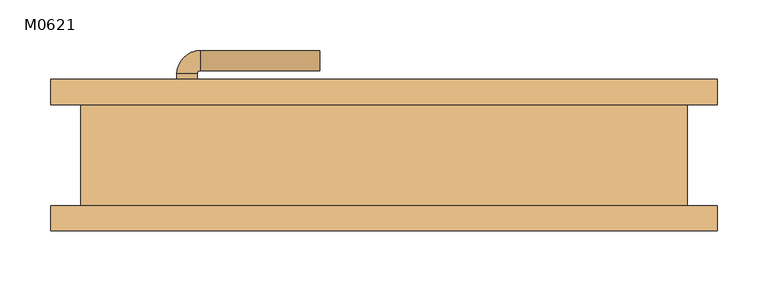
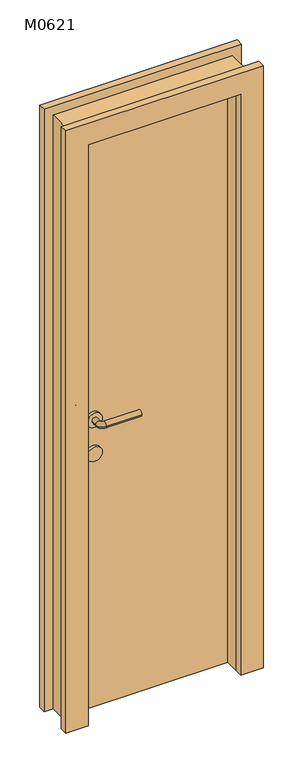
"""IFC4 building model written with IfcOpenShell, lengths in millimetres: door geometry, 单嵌板木门 1 : M0621."""

from ifc_helpers import new_model, si_unit, point, frame, frame_2d, origin, origin_with_axes, place, context, project, spatial, polyline, circle_curve, ellipse_curve, trimmed, segment, composite_curve, outline, extrude, source, transform, mapped, element, save
from ifc_brep_helpers import plane_surface, cylinder_surface, revolved_surface, advanced_brep


def m0621_319aa167(model_context):
    return source(origin(), model_context, "Body", "SolidModel", [
        extrude(outline(composite_curve([segment(trimmed(circle_curve(frame_2d((900.0, -195.0)), 25.0), [point((900.0, -170.0))], [point((900.0, -220.0))], False, "CARTESIAN"), True, "CONTINUOUS"), segment(trimmed(circle_curve(frame_2d((900.0, -195.0)), 25.0), [point((900.0, -220.0))], [point((900.0, -170.0))], False, "CARTESIAN"), True, "CONTINUOUS")], self_intersect=False)), frame((0.0, -10.0, 0.0), z_axis=(0.0, 1.0, 0.0), x_axis=(0.0, 0.0, 1.0)), (0.0, 0.0, 1.0), 10.0),
        extrude(outline(composite_curve([segment(trimmed(circle_curve(frame_2d((900.0, -195.0)), 25.0), [point((900.0, -170.0))], [point((900.0, -220.0))], False, "CARTESIAN"), True, "CONTINUOUS"), segment(trimmed(circle_curve(frame_2d((900.0, -195.0)), 25.0), [point((900.0, -220.0))], [point((900.0, -170.0))], False, "CARTESIAN"), True, "CONTINUOUS")], self_intersect=False)), frame((0.0, 50.0, 0.0), z_axis=(0.0, 1.0, 0.0), x_axis=(0.0, 0.0, 1.0)), (0.0, 0.0, 1.0), 10.0),
        advanced_brep(
        [(-205.0, -10.0, 1020.0), (-185.0, -10.0, 1020.0), (-185.0, -30.613355, 1020.0), (-205.0, -30.613355, 1020.0), (-63.419036, -53.580964, 1020.0), (-63.419036, -33.580964, 1020.0), (-182.0323911, -33.580964, 1020.0), (-182.0323911, -53.580964, 1020.0)],
        [
            (0, 1, circle_curve(frame((-195.0, -10.0, 1020.0), z_axis=(0.0, 1.0, 0.0), x_axis=(1.0, 0.0, 0.0)), 10.0)),
            (1, 0, circle_curve(frame((-195.0, -10.0, 1020.0), z_axis=(0.0, 1.0, 0.0), x_axis=(1.0, 0.0, 0.0)), 10.0)),
            (1, 2),
            (2, 3, circle_curve(frame((-195.0, -30.613355, 1020.0), z_axis=(0.0, 1.0, 0.0), x_axis=(1.0, 0.0, 0.0)), 10.0)),
            (3, 0),
            (3, 2, circle_curve(frame((-195.0, -30.613355, 1020.0), z_axis=(0.0, 1.0, 0.0), x_axis=(1.0, 0.0, 0.0)), 10.0)),
            (4, 5, circle_curve(frame((-63.419036, -43.580964, 1020.0), z_axis=(1.0, 0.0, 0.0), x_axis=(0.0, 1.0, 0.0)), 10.0)),
            (5, 4, circle_curve(frame((-63.419036, -43.580964, 1020.0), z_axis=(1.0, 0.0, 0.0), x_axis=(0.0, 1.0, 0.0)), 10.0)),
            (6, 2, circle_curve(frame((-182.0323911, -30.613355, 1020.0), z_axis=(0.0, 0.0, -1.0), x_axis=(-1.0, 0.0, 0.0)), 2.9676089)),
            (3, 7, circle_curve(frame((-182.0323911, -30.613355, 1020.0), z_axis=(0.0, 0.0, 1.0), x_axis=(-1.0, 0.0, 0.0)), 22.9676089)),
            (7, 6, circle_curve(frame((-182.0323911, -43.580964, 1020.0), z_axis=(-1.0, 0.0, 0.0), x_axis=(0.0, 1.0, 0.0)), 10.0)),
            (6, 7, circle_curve(frame((-182.0323911, -43.580964, 1020.0), z_axis=(-1.0, 0.0, 0.0), x_axis=(0.0, 1.0, 0.0)), 10.0)),
            (7, 4),
            (5, 6),
        ],
        [
            plane_surface(frame((-195.0, -10.0, 900.0), z_axis=(0.0, 1.0, 0.0), x_axis=(0.0, 0.0, 1.0))),
            cylinder_surface(frame((-195.0, -10.0, 1020.0), z_axis=(0.0, 1.0, 0.0), x_axis=(1.0, 0.0, 0.0)), 10.0),
            plane_surface(frame((-63.419036, -43.580964, 900.0), z_axis=(1.0, 0.0, 0.0), x_axis=(0.0, 0.0, 1.0))),
            revolved_surface(trimmed(ellipse_curve(frame((-195.0, -30.613355, 1020.0), z_axis=(0.0, 1.0, 0.0), x_axis=(1.0, 0.0, 0.0)), 10.0, 10.0), [point((-205.0, -30.613355, 1020.0))], [point((-185.0, -30.613355, 1020.0))], True, "CARTESIAN"), (-182.0323911, -30.613355, 900.0), (0.0, 0.0, 1.0)),
            revolved_surface(trimmed(ellipse_curve(frame((-195.0, -30.613355, 1020.0), z_axis=(0.0, 1.0, 0.0), x_axis=(1.0, 0.0, 0.0)), 10.0, 10.0), [point((-185.0, -30.613355, 1020.0))], [point((-205.0, -30.613355, 1020.0))], True, "CARTESIAN"), (-182.0323911, -30.613355, 900.0), (0.0, 0.0, 1.0)),
            cylinder_surface(frame((-182.0323911, -43.580964, 1020.0), z_axis=(-1.0, 0.0, 0.0), x_axis=(0.0, 1.0, 0.0)), 10.0),
        ],
        [
            (0, [[1, 2]]),
            (1, [[-2, 3, 4, 5]]),
            (1, [[-1, -5, 6, -3]]),
            (2, [[7, 8]]),
            (3, [[9, -6, 10, 11]]),
            (4, [[-10, -4, -9, 12]]),
            (5, [[-11, 13, -8, 14]]),
            (5, [[-12, -14, -7, -13]]),
        ],
    ),
        extrude(outline(composite_curve([segment(trimmed(circle_curve(frame_2d((1020.0, -195.0)), 25.0), [point((1020.0, -170.0))], [point((1020.0, -220.0))], False, "CARTESIAN"), True, "CONTINUOUS"), segment(trimmed(circle_curve(frame_2d((1020.0, -195.0)), 25.0), [point((1020.0, -220.0))], [point((1020.0, -170.0))], False, "CARTESIAN"), True, "CONTINUOUS")], self_intersect=False)), frame((0.0, -10.0, 0.0), z_axis=(0.0, 1.0, 0.0), x_axis=(0.0, 0.0, 1.0)), (0.0, 0.0, 1.0), 10.0),
        advanced_brep(
        [(-185.0, 60.0, 1020.0), (-205.0, 60.0, 1020.0), (-185.0, 80.6133551, 1020.0), (-205.0, 80.6133551, 1020.0), (-63.419036, 83.580964, 1020.0), (-63.419036, 103.580964, 1020.0), (-182.0323911, 103.580964, 1020.0), (-182.0323911, 83.580964, 1020.0)],
        [
            (0, 1, circle_curve(frame((-195.0, 60.0, 1020.0), z_axis=(0.0, -1.0, 0.0), x_axis=(-1.0, 0.0, 0.0)), 10.0)),
            (1, 0, circle_curve(frame((-195.0, 60.0, 1020.0), z_axis=(0.0, -1.0, 0.0), x_axis=(-1.0, 0.0, 0.0)), 10.0)),
            (0, 2),
            (2, 3, circle_curve(frame((-195.0, 80.6133551, 1020.0), z_axis=(0.0, -1.0, 0.0), x_axis=(-1.0, 0.0, 0.0)), 10.0)),
            (3, 1),
            (3, 2, circle_curve(frame((-195.0, 80.6133551, 1020.0), z_axis=(0.0, -1.0, 0.0), x_axis=(-1.0, 0.0, 0.0)), 10.0)),
            (4, 5, circle_curve(frame((-63.419036, 93.580964, 1020.0), z_axis=(1.0, 0.0, 0.0), x_axis=(0.0, 1.0, 0.0)), 10.0)),
            (5, 4, circle_curve(frame((-63.419036, 93.580964, 1020.0), z_axis=(1.0, 0.0, 0.0), x_axis=(0.0, 1.0, 0.0)), 10.0)),
            (6, 3, circle_curve(frame((-182.0323911, 80.6133551, 1020.0), z_axis=(0.0, 0.0, 1.0), x_axis=(-1.0, 0.0, 0.0)), 22.9676089)),
            (2, 7, circle_curve(frame((-182.0323911, 80.6133551, 1020.0), z_axis=(0.0, 0.0, -1.0), x_axis=(-1.0, 0.0, 0.0)), 2.9676089)),
            (7, 6, circle_curve(frame((-182.0323911, 93.580964, 1020.0), z_axis=(-1.0, 0.0, 0.0), x_axis=(0.0, 1.0, 0.0)), 10.0)),
            (6, 7, circle_curve(frame((-182.0323911, 93.580964, 1020.0), z_axis=(-1.0, 0.0, 0.0), x_axis=(0.0, 1.0, 0.0)), 10.0)),
            (7, 4),
            (5, 6),
        ],
        [
            plane_surface(frame((-195.0, 60.0, 900.0), z_axis=(0.0, -1.0, 0.0), x_axis=(0.0, 0.0, 1.0))),
            cylinder_surface(frame((-195.0, 60.0, 1020.0), z_axis=(0.0, -1.0, 0.0), x_axis=(-1.0, 0.0, 0.0)), 10.0),
            plane_surface(frame((-63.419036, 93.580964, 900.0), z_axis=(1.0, 0.0, 0.0), x_axis=(0.0, 0.0, 1.0))),
            revolved_surface(trimmed(ellipse_curve(frame((-195.0, 80.6133551, 1020.0), z_axis=(0.0, -1.0, 0.0), x_axis=(-1.0, 0.0, 0.0)), 10.0, 10.0), [point((-185.0, 80.6133551, 1020.0))], [point((-205.0, 80.6133551, 1020.0))], True, "CARTESIAN"), (-182.0323911, 80.6133551, 900.0), (0.0, 0.0, -1.0)),
            revolved_surface(trimmed(ellipse_curve(frame((-195.0, 80.6133551, 1020.0), z_axis=(0.0, -1.0, 0.0), x_axis=(-1.0, 0.0, 0.0)), 10.0, 10.0), [point((-205.0, 80.6133551, 1020.0))], [point((-185.0, 80.6133551, 1020.0))], True, "CARTESIAN"), (-182.0323911, 80.6133551, 900.0), (0.0, 0.0, -1.0)),
            cylinder_surface(frame((-182.0323911, 93.580964, 1020.0), z_axis=(-1.0, 0.0, 0.0), x_axis=(0.0, 1.0, 0.0)), 10.0),
        ],
        [
            (0, [[1, 2]]),
            (1, [[-1, 3, 4, 5]]),
            (1, [[-2, -5, 6, -3]]),
            (2, [[7, 8]]),
            (3, [[9, -4, 10, 11]]),
            (4, [[-10, -6, -9, 12]]),
            (5, [[-11, 13, -8, 14]]),
            (5, [[-12, -14, -7, -13]]),
        ],
    ),
        extrude(outline(composite_curve([segment(trimmed(circle_curve(frame_2d((1020.0, -195.0)), 25.0), [point((1020.0, -170.0))], [point((1020.0, -220.0))], False, "CARTESIAN"), True, "CONTINUOUS"), segment(trimmed(circle_curve(frame_2d((1020.0, -195.0)), 25.0), [point((1020.0, -220.0))], [point((1020.0, -170.0))], False, "CARTESIAN"), True, "CONTINUOUS")], self_intersect=False)), frame((0.0, 50.0, 0.0), z_axis=(0.0, 1.0, 0.0), x_axis=(0.0, 0.0, 1.0)), (0.0, 0.0, 1.0), 10.0),
        extrude(outline(polyline([(0.0, 330.0), (2130.0, 330.0), (2130.0, -330.0), (0.0, -330.0), (0.0, -255.0), (2055.0, -255.0), (2055.0, 255.0), (0.0, 255.0), (0.0, 330.0)])), frame((0.0, 50.0, 0.0), z_axis=(0.0, 1.0, 0.0), x_axis=(0.0, 0.0, 1.0)), (0.0, 0.0, 1.0), 25.0),
        extrude(outline(polyline([(2130.0, 330.0), (2130.0, -330.0), (0.0, -330.0), (0.0, -255.0), (2055.0, -255.0), (2055.0, 255.0), (0.0, 255.0), (0.0, 330.0), (2130.0, 330.0)])), frame((0.0, -75.0, 0.0), z_axis=(0.0, 1.0, 0.0), x_axis=(0.0, 0.0, 1.0)), (0.0, 0.0, 1.0), 25.0),
        extrude(outline(polyline([(255.0, 0.0), (-255.0, 0.0), (-255.0, 50.0), (255.0, 50.0), (255.0, 0.0)])), origin_with_axes(), (0.0, 0.0, 1.0), 2055.0),
        extrude(outline(polyline([(2100.0, -300.0), (0.0, -300.0), (0.0, -255.0), (2055.0, -255.0), (2055.0, 255.0), (0.0, 255.0), (0.0, 300.0), (2100.0, 300.0), (2100.0, -300.0)])), frame((0.0, -50.0, 0.0), z_axis=(0.0, 1.0, 0.0), x_axis=(0.0, 0.0, 1.0)), (0.0, 0.0, 1.0), 100.0),
    ])


if __name__ == "__main__":
    model = new_model("IFC4")
    model_context = context("Model", 3, world=origin())
    ifc_project = project(units=[si_unit("LENGTHUNIT", "METRE", prefix="MILLI")], contexts=[model_context])
    site = spatial("IfcSite", under=ifc_project)
    building = spatial("IfcBuilding", under=site)
    placement = place(None, origin())
    m0621_shape = m0621_319aa167(model_context)
    element("IfcDoor", 1, ObjectType="单嵌板木门 1 : M0621", at=placement, inside=building, context=model_context, shape_type="MappedRepresentation", body=[
        mapped(m0621_shape, transform((0.0, 0.0, 0.0), x_axis=(1.0, 0.0, 0.0), y_axis=(0.0, 1.0, 0.0), z_axis=(0.0, 0.0, 1.0))),
    ])
    save(model, "model.ifc")
